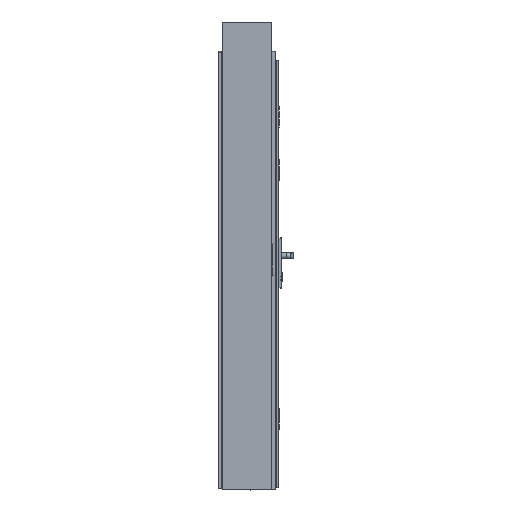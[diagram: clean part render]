
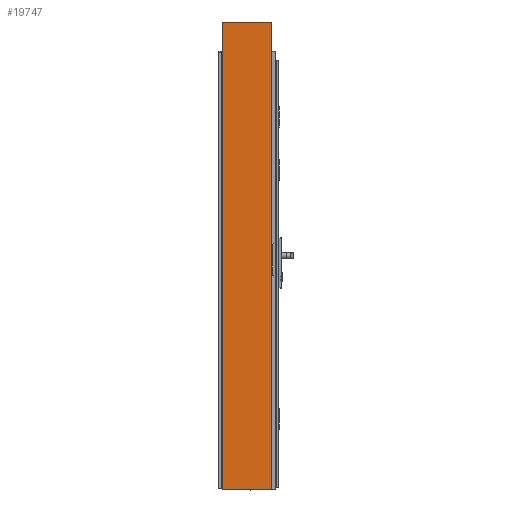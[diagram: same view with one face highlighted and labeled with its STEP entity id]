
A CAD part, left-side view. The second image highlights one B-rep face of the part: STEP entity #19747.
In plain terms, the highlighted planar face has unit normal (-1, 0, 0).
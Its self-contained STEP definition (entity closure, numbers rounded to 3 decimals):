
#19747=ADVANCED_FACE('',(#38547),#31322,.T.);
#31322=PLANE('',#215528);
#38547=FACE_OUTER_BOUND('',#48967,.T.);
#48967=EDGE_LOOP('',(#62053,#62054,#62055,#62056));
#62053=ORIENTED_EDGE('',*,*,#142087,.T.);
#62054=ORIENTED_EDGE('',*,*,#142086,.T.);
#62055=ORIENTED_EDGE('',*,*,#142088,.F.);
#62056=ORIENTED_EDGE('',*,*,#142066,.T.);
#122115=VERTEX_POINT('',#285870);
#122117=VERTEX_POINT('',#285873);
#122129=VERTEX_POINT('',#285909);
#122130=VERTEX_POINT('',#285911);
#142066=EDGE_CURVE('',#122117,#122115,#172111,.T.);
#142086=EDGE_CURVE('',#122129,#122130,#172131,.T.);
#142087=EDGE_CURVE('',#122115,#122129,#172132,.T.);
#142088=EDGE_CURVE('',#122117,#122130,#172133,.T.);
#172111=LINE('',#285872,#193701);
#172131=LINE('',#285912,#193721);
#172132=LINE('',#285914,#193722);
#172133=LINE('',#285915,#193723);
#193701=VECTOR('',#231699,1.);
#193721=VECTOR('',#231731,1.);
#193722=VECTOR('',#231734,1.);
#193723=VECTOR('',#231735,1.);
#215528=AXIS2_PLACEMENT_3D('',#285916,#231736,#231737);
#231699=DIRECTION('',(0.,-1.,0.));
#231731=DIRECTION('',(0.,1.,0.));
#231734=DIRECTION('',(0.,0.,1.));
#231735=DIRECTION('',(0.,0.,1.));
#231736=DIRECTION('',(-1.,0.,0.));
#231737=DIRECTION('',(0.,0.,1.));
#285870=CARTESIAN_POINT('',(-507.5,-5.3,-7.75));
#285872=CARTESIAN_POINT('',(-507.5,229.4,-7.75));
#285873=CARTESIAN_POINT('',(-507.5,229.4,-7.75));
#285909=CARTESIAN_POINT('',(-507.5,-5.3,2215.25));
#285911=CARTESIAN_POINT('',(-507.5,229.4,2215.25));
#285912=CARTESIAN_POINT('',(-507.5,229.4,2215.25));
#285914=CARTESIAN_POINT('',(-507.5,-5.3,2215.25));
#285915=CARTESIAN_POINT('',(-507.5,229.4,2215.25));
#285916=CARTESIAN_POINT('',(-507.5,229.4,2215.25));
